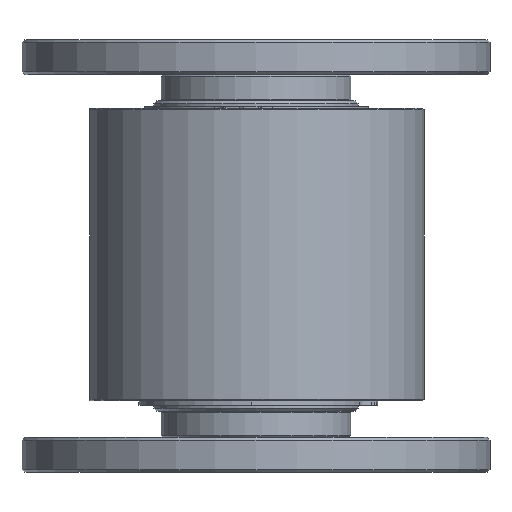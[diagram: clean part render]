
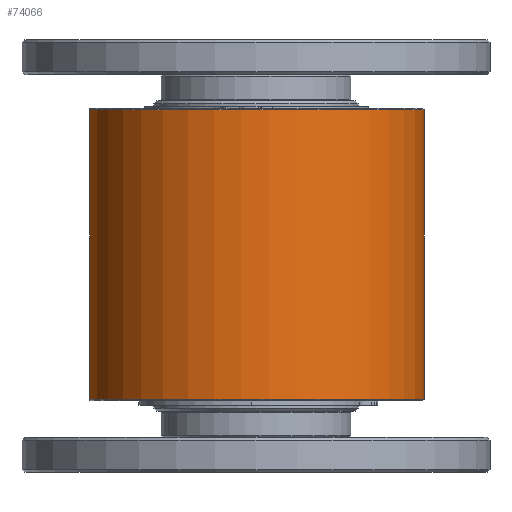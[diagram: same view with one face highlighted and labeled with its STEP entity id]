
A CAD part, front view. The second image highlights one B-rep face of the part: STEP entity #74066.
In plain terms, the highlighted cylindrical face has radius 57.5 mm (diameter 115 mm), a partial arc.
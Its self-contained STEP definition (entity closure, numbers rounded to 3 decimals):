
#1177 = AXIS2_PLACEMENT_3D ( 'NONE', #13536, #26407, #41051 ) ;
#3335 = CIRCLE ( 'NONE', #1177, 57.5 ) ;
#8618 = CIRCLE ( 'NONE', #16907, 57.5 ) ;
#9550 = CARTESIAN_POINT ( 'NONE',  ( -56.791, -9., 49.5 ) ) ;
#10246 = ORIENTED_EDGE ( 'NONE', *, *, #49428, .T. ) ;
#12805 = CARTESIAN_POINT ( 'NONE',  ( -56.791, -9., -50. ) ) ;
#13536 = CARTESIAN_POINT ( 'NONE',  ( 0., 0., 49.5 ) ) ;
#16748 = VERTEX_POINT ( 'NONE', #68406 ) ;
#16907 = AXIS2_PLACEMENT_3D ( 'NONE', #61767, #54477, #19885 ) ;
#19885 = DIRECTION ( 'NONE',  ( 1., 0., 0. ) ) ;
#20258 = CARTESIAN_POINT ( 'NONE',  ( 0., 0., -50. ) ) ;
#20499 = FACE_OUTER_BOUND ( 'NONE', #69234, .T. ) ;
#20782 = VERTEX_POINT ( 'NONE', #85420 ) ;
#25872 = LINE ( 'NONE', #52013, #57647 ) ;
#26407 = DIRECTION ( 'NONE',  ( 0., 0., -1. ) ) ;
#27594 = DIRECTION ( 'NONE',  ( 1., 0., 0. ) ) ;
#34340 = VERTEX_POINT ( 'NONE', #70351 ) ;
#34421 = ORIENTED_EDGE ( 'NONE', *, *, #89437, .T. ) ;
#41051 = DIRECTION ( 'NONE',  ( 1., 0., 0. ) ) ;
#44332 = DIRECTION ( 'NONE',  ( 0., 0., 1. ) ) ;
#49428 = EDGE_CURVE ( 'NONE', #16748, #34340, #8618, .T. ) ;
#52013 = CARTESIAN_POINT ( 'NONE',  ( 57.5, 0., -50. ) ) ;
#54477 = DIRECTION ( 'NONE',  ( 0., 0., 1. ) ) ;
#54709 = ORIENTED_EDGE ( 'NONE', *, *, #57572, .F. ) ;
#57572 = EDGE_CURVE ( 'NONE', #16748, #86163, #88984, .T. ) ;
#57647 = VECTOR ( 'NONE', #44332, 1000. ) ;
#59399 = AXIS2_PLACEMENT_3D ( 'NONE', #20258, #83443, #27594 ) ;
#60821 = DIRECTION ( 'NONE',  ( 0., 0., 1. ) ) ;
#61767 = CARTESIAN_POINT ( 'NONE',  ( 0., 0., -49.5 ) ) ;
#65716 = EDGE_CURVE ( 'NONE', #34340, #20782, #25872, .T. ) ;
#68406 = CARTESIAN_POINT ( 'NONE',  ( -56.791, -9., -49.5 ) ) ;
#69234 = EDGE_LOOP ( 'NONE', ( #10246, #69393, #34421, #54709 ) ) ;
#69393 = ORIENTED_EDGE ( 'NONE', *, *, #65716, .T. ) ;
#70351 = CARTESIAN_POINT ( 'NONE',  ( 57.5, 0., -49.5 ) ) ;
#74066 = ADVANCED_FACE ( 'NONE', ( #20499 ), #87062, .T. ) ;
#83443 = DIRECTION ( 'NONE',  ( 0., 0., 1. ) ) ;
#85420 = CARTESIAN_POINT ( 'NONE',  ( 57.5, 0., 49.5 ) ) ;
#85794 = VECTOR ( 'NONE', #60821, 1000. ) ;
#86163 = VERTEX_POINT ( 'NONE', #9550 ) ;
#87062 = CYLINDRICAL_SURFACE ( 'NONE', #59399, 57.5 ) ;
#88984 = LINE ( 'NONE', #12805, #85794 ) ;
#89437 = EDGE_CURVE ( 'NONE', #20782, #86163, #3335, .T. ) ;
